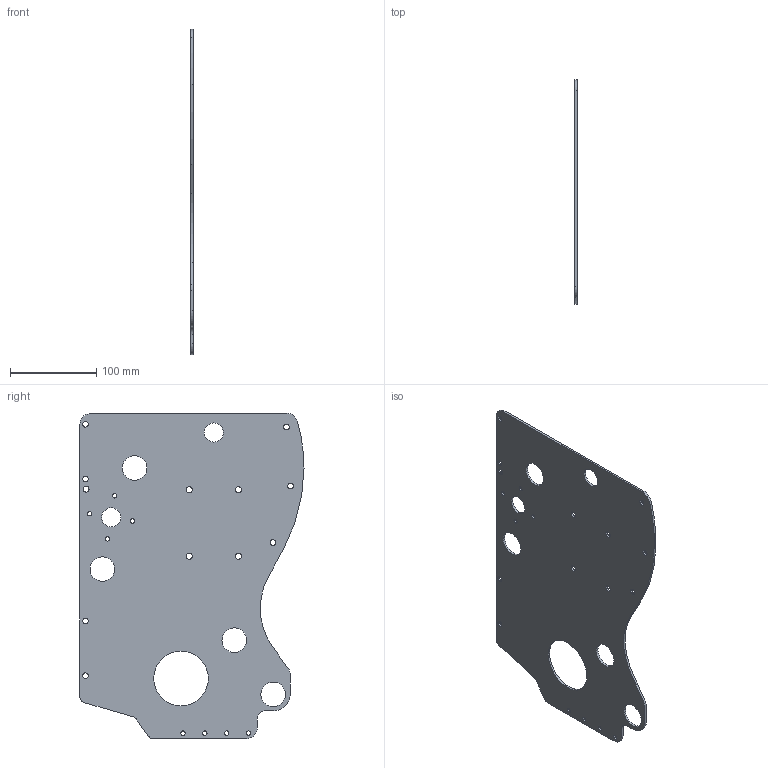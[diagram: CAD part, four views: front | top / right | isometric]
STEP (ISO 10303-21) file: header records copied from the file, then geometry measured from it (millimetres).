
FILE_DESCRIPTION (( 'STEP AP214' ), '1' );
FILE_NAME ('KB-26001_ Side Plate_1.step', '2025-12-23T15:52:21', ( '' ), ( '' ), 'SwSTEP 2.0', 'SolidWorks 2026', '' );
FILE_SCHEMA (( 'AUTOMOTIVE_DESIGN' ));
Length unit declared in the file: inch
Products named in the file (1): KB-26001_ Side Plate_1
Bounding box: 2.54 x 260.35 x 377.96 mm (x, y, z)
Volume: 202423.6 mm3; surface area: 165220.5 mm2
Topology: 1 solids, 1 shells, 78 faces, 228 edges, 152 vertices
Faces by surface type: cylinder 66, plane 12
Entity records: 2799 total; most frequent: DIRECTION 518, CARTESIAN_POINT 459, ORIENTED_EDGE 456, EDGE_CURVE 228, AXIS2_PLACEMENT_3D 211, VERTEX_POINT 152, CIRCLE 132, EDGE_LOOP 132
